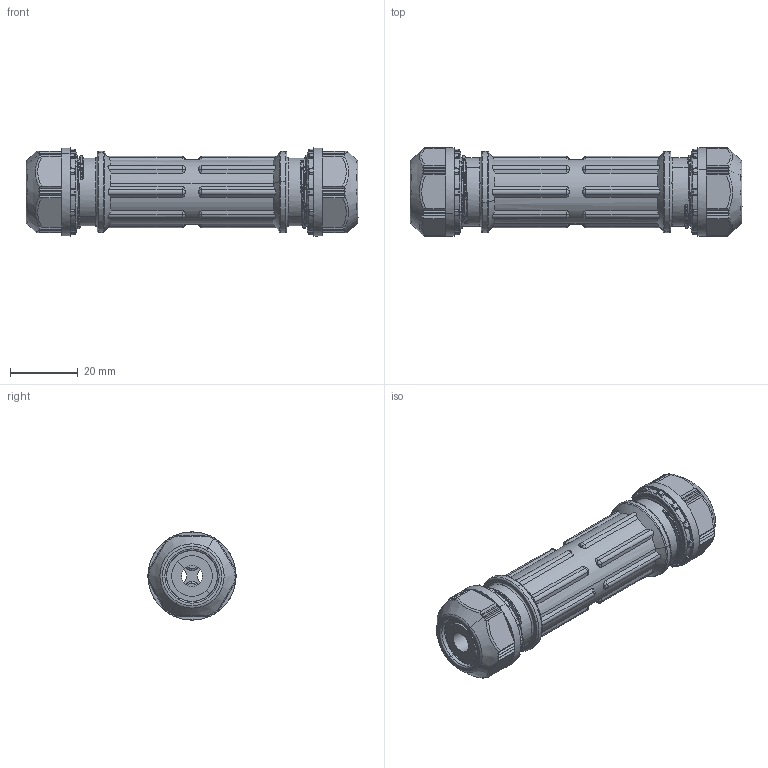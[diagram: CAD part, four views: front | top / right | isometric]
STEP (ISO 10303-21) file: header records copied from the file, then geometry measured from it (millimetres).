
FILE_DESCRIPTION(('Creo Elements/Direct Modeling STEP Export'),'2;1');
FILE_NAME('H16-0012-CL901-02_OA-QW09404SRSN.stp','2021-11-26T16:42:48',(''),(''),'Creo Elements/Direct Modeling STEP processor for AP214 (Solid Model)','Creo Elements/Direct Modeling 20.3B 05-Dec-2020 (C) Parametric Technology GmbH','');
FILE_SCHEMA(('AUTOMOTIVE_DESIGN { 1 0 10303 214 1 1 1 1 }'));
Length unit declared in the file: millimetre
Products named in the file (6): BB-040S_1; Body; G13-404RS; G13-09ARS; G13-09BRS; OA-QW09404SRSN
Assembly tree (6 placements, depth 2):
  OA-QW09404SRSN
    G13-09BRS
    G13-09ARS
    G13-404RS
    Body
    BB-040S_1  x2
Bounding box: 97.97 x 26 x 26 mm (x, y, z)
Volume: 23751.7 mm3; surface area: 19724.6 mm2
Topology: 6 solids, 6 shells, 990 faces, 2617 edges, 1662 vertices
Faces by surface type: plane 385, bspline 224, cylinder 200, torus 127, cone 54
Entity records: 53775 total; most frequent: CARTESIAN_POINT 33436, ORIENTED_EDGE 5118, DIRECTION 2803, EDGE_CURVE 2559, VERTEX_POINT 1619, EDGE_LOOP 992, FACE_OUTER_BOUND 970, ADVANCED_FACE 970
